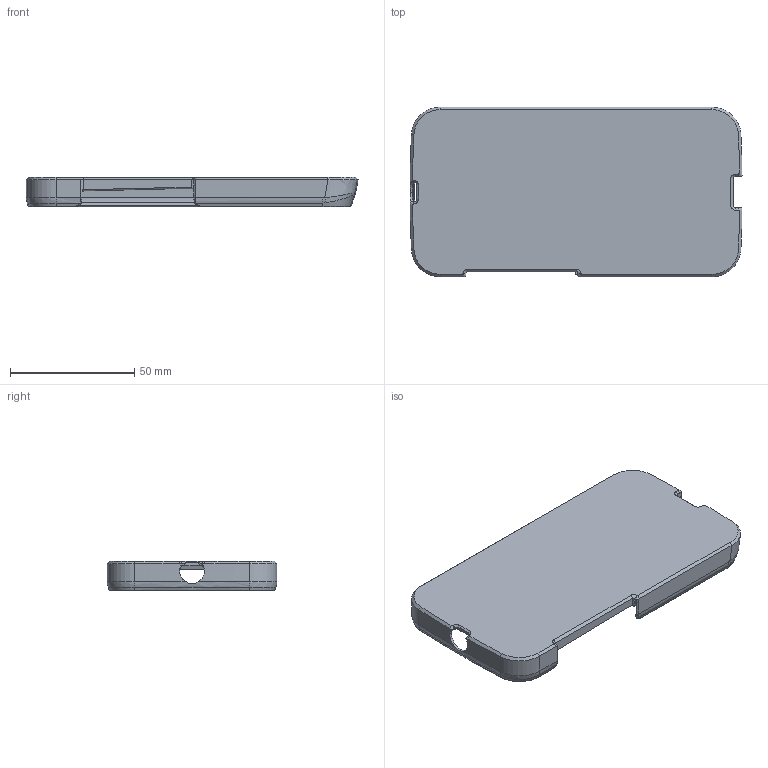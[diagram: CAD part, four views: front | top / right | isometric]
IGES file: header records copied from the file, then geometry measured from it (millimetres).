
Start section: SolidWorks IGES file using analytic representation for surfaces
Global section: file name: C:\Users\Andrew Sorg\Desktop\MotoX_Case_v2_SOLID.IGS; native system: SolidWorks 2014; preprocessor: SolidWorks 2014; author: Andrew Sorg; date: 141110.145623; units: millimetre
Bounding box: 133.4 x 68.13 x 12 mm (x, y, z)
Volume: 22501.6 mm3; surface area: 24139 mm2
Topology: 1 solids, 1 shells, 154 faces, 382 edges, 221 vertices
Faces by surface type: revolution 67, bspline 55, plane 32
